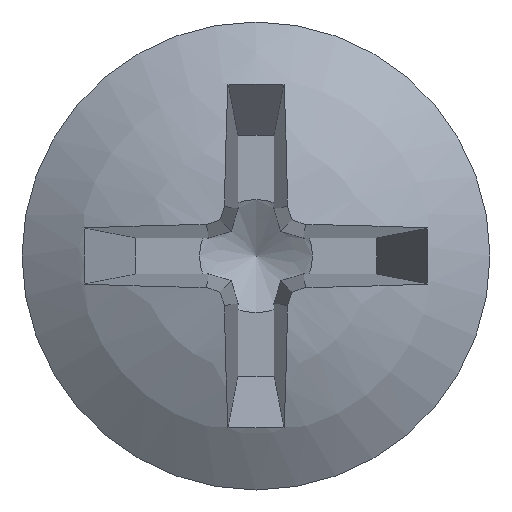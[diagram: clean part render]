
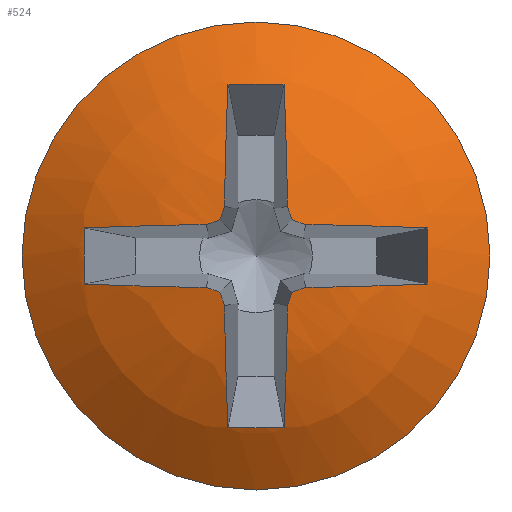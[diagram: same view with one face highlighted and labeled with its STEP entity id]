
A CAD part, front view. The second image highlights one B-rep face of the part: STEP entity #524.
In plain terms, the highlighted spherical face has radius 8 mm.
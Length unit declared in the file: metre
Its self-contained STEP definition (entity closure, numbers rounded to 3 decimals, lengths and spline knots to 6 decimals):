
#34=SPHERICAL_SURFACE('',#572,0.008);
#38=CIRCLE('',#573,0.007999);
#39=CIRCLE('',#574,0.007998);
#40=CIRCLE('',#575,0.007998);
#41=CIRCLE('',#576,0.007999);
#42=CIRCLE('',#577,0.008);
#43=CIRCLE('',#578,0.007999);
#44=CIRCLE('',#579,0.007998);
#45=CIRCLE('',#580,0.007998);
#46=CIRCLE('',#581,0.007999);
#47=CIRCLE('',#582,0.008);
#48=CIRCLE('',#583,0.007999);
#49=CIRCLE('',#584,0.007998);
#50=CIRCLE('',#585,0.007998);
#51=CIRCLE('',#586,0.007999);
#52=CIRCLE('',#587,0.008);
#53=CIRCLE('',#588,0.007999);
#54=CIRCLE('',#589,0.007998);
#55=CIRCLE('',#590,0.007998);
#56=CIRCLE('',#591,0.007999);
#57=CIRCLE('',#592,0.008);
#58=CIRCLE('',#593,0.00475);
#77=ORIENTED_EDGE('',*,*,#233,.F.);
#78=ORIENTED_EDGE('',*,*,#234,.T.);
#79=ORIENTED_EDGE('',*,*,#235,.T.);
#80=ORIENTED_EDGE('',*,*,#236,.T.);
#81=ORIENTED_EDGE('',*,*,#237,.F.);
#82=ORIENTED_EDGE('',*,*,#238,.F.);
#83=ORIENTED_EDGE('',*,*,#239,.T.);
#84=ORIENTED_EDGE('',*,*,#240,.T.);
#85=ORIENTED_EDGE('',*,*,#241,.F.);
#86=ORIENTED_EDGE('',*,*,#242,.T.);
#87=ORIENTED_EDGE('',*,*,#243,.T.);
#88=ORIENTED_EDGE('',*,*,#244,.T.);
#89=ORIENTED_EDGE('',*,*,#245,.T.);
#90=ORIENTED_EDGE('',*,*,#246,.F.);
#91=ORIENTED_EDGE('',*,*,#247,.T.);
#92=ORIENTED_EDGE('',*,*,#248,.T.);
#93=ORIENTED_EDGE('',*,*,#249,.T.);
#94=ORIENTED_EDGE('',*,*,#250,.T.);
#95=ORIENTED_EDGE('',*,*,#251,.T.);
#96=ORIENTED_EDGE('',*,*,#252,.F.);
#97=ORIENTED_EDGE('',*,*,#253,.F.);
#233=EDGE_CURVE('',#311,#312,#38,.T.);
#234=EDGE_CURVE('',#311,#313,#39,.F.);
#235=EDGE_CURVE('',#313,#314,#40,.F.);
#236=EDGE_CURVE('',#314,#315,#41,.F.);
#237=EDGE_CURVE('',#316,#315,#42,.T.);
#238=EDGE_CURVE('',#317,#316,#43,.T.);
#239=EDGE_CURVE('',#317,#318,#44,.F.);
#240=EDGE_CURVE('',#318,#319,#45,.F.);
#241=EDGE_CURVE('',#320,#319,#46,.T.);
#242=EDGE_CURVE('',#320,#321,#47,.F.);
#243=EDGE_CURVE('',#321,#322,#48,.F.);
#244=EDGE_CURVE('',#322,#323,#49,.F.);
#245=EDGE_CURVE('',#323,#324,#50,.F.);
#246=EDGE_CURVE('',#325,#324,#51,.T.);
#247=EDGE_CURVE('',#325,#326,#52,.F.);
#248=EDGE_CURVE('',#326,#327,#53,.F.);
#249=EDGE_CURVE('',#327,#328,#54,.F.);
#250=EDGE_CURVE('',#328,#329,#55,.F.);
#251=EDGE_CURVE('',#329,#330,#56,.F.);
#252=EDGE_CURVE('',#312,#330,#57,.T.);
#253=EDGE_CURVE('',#331,#331,#58,.T.);
#311=VERTEX_POINT('',#816);
#312=VERTEX_POINT('',#817);
#313=VERTEX_POINT('',#819);
#314=VERTEX_POINT('',#821);
#315=VERTEX_POINT('',#823);
#316=VERTEX_POINT('',#825);
#317=VERTEX_POINT('',#827);
#318=VERTEX_POINT('',#829);
#319=VERTEX_POINT('',#831);
#320=VERTEX_POINT('',#833);
#321=VERTEX_POINT('',#835);
#322=VERTEX_POINT('',#837);
#323=VERTEX_POINT('',#839);
#324=VERTEX_POINT('',#841);
#325=VERTEX_POINT('',#843);
#326=VERTEX_POINT('',#845);
#327=VERTEX_POINT('',#847);
#328=VERTEX_POINT('',#849);
#329=VERTEX_POINT('',#851);
#330=VERTEX_POINT('',#853);
#331=VERTEX_POINT('',#856);
#421=EDGE_LOOP('',(#77,#78,#79,#80,#81,#82,#83,#84,#85,#86,#87,#88,#89,
#90,#91,#92,#93,#94,#95,#96));
#422=EDGE_LOOP('',(#97));
#459=FACE_BOUND('',#421,.T.);
#460=FACE_BOUND('',#422,.T.);
#524=ADVANCED_FACE('',(#459,#460),#34,.T.);
#572=AXIS2_PLACEMENT_3D('',#814,#651,#652);
#573=AXIS2_PLACEMENT_3D('',#815,#653,#654);
#574=AXIS2_PLACEMENT_3D('',#818,#655,#656);
#575=AXIS2_PLACEMENT_3D('',#820,#657,#658);
#576=AXIS2_PLACEMENT_3D('',#822,#659,#660);
#577=AXIS2_PLACEMENT_3D('',#824,#661,#662);
#578=AXIS2_PLACEMENT_3D('',#826,#663,#664);
#579=AXIS2_PLACEMENT_3D('',#828,#665,#666);
#580=AXIS2_PLACEMENT_3D('',#830,#667,#668);
#581=AXIS2_PLACEMENT_3D('',#832,#669,#670);
#582=AXIS2_PLACEMENT_3D('',#834,#671,#672);
#583=AXIS2_PLACEMENT_3D('',#836,#673,#674);
#584=AXIS2_PLACEMENT_3D('',#838,#675,#676);
#585=AXIS2_PLACEMENT_3D('',#840,#677,#678);
#586=AXIS2_PLACEMENT_3D('',#842,#679,#680);
#587=AXIS2_PLACEMENT_3D('',#844,#681,#682);
#588=AXIS2_PLACEMENT_3D('',#846,#683,#684);
#589=AXIS2_PLACEMENT_3D('',#848,#685,#686);
#590=AXIS2_PLACEMENT_3D('',#850,#687,#688);
#591=AXIS2_PLACEMENT_3D('',#852,#689,#690);
#592=AXIS2_PLACEMENT_3D('',#854,#691,#692);
#593=AXIS2_PLACEMENT_3D('',#855,#693,#694);
#651=DIRECTION('',(0.,1.,0.));
#652=DIRECTION('',(0.,0.,1.));
#653=DIRECTION('',(0.995,-0.095,0.));
#654=DIRECTION('',(-0.095,-0.995,0.));
#655=DIRECTION('',(0.943,-0.095,0.318));
#656=DIRECTION('',(-0.319,0.,0.948));
#657=DIRECTION('',(0.318,-0.095,0.943));
#658=DIRECTION('',(-0.948,0.,0.319));
#659=DIRECTION('',(0.,-0.095,0.995));
#660=DIRECTION('',(0.,-0.995,-0.095));
#661=DIRECTION('',(0.896,-0.443,0.));
#662=DIRECTION('',(-0.443,-0.896,0.));
#663=DIRECTION('',(0.,-0.095,-0.995));
#664=DIRECTION('',(0.,0.995,-0.095));
#665=DIRECTION('',(0.318,-0.095,-0.943));
#666=DIRECTION('',(0.948,0.,0.319));
#667=DIRECTION('',(0.943,-0.095,-0.318));
#668=DIRECTION('',(0.319,0.,0.948));
#669=DIRECTION('',(0.995,-0.095,0.));
#670=DIRECTION('',(-0.095,-0.995,0.));
#671=DIRECTION('',(0.,-0.443,-0.896));
#672=DIRECTION('',(0.,0.896,-0.443));
#673=DIRECTION('',(-0.995,-0.095,0.));
#674=DIRECTION('',(-0.095,0.995,0.));
#675=DIRECTION('',(-0.943,-0.095,-0.318));
#676=DIRECTION('',(0.319,0.,-0.948));
#677=DIRECTION('',(-0.318,-0.095,-0.943));
#678=DIRECTION('',(0.948,0.,-0.319));
#679=DIRECTION('',(0.,-0.095,-0.995));
#680=DIRECTION('',(0.,0.995,-0.095));
#681=DIRECTION('',(-0.896,-0.443,0.));
#682=DIRECTION('',(-0.443,0.896,0.));
#683=DIRECTION('',(0.,-0.095,0.995));
#684=DIRECTION('',(0.,-0.995,-0.095));
#685=DIRECTION('',(-0.318,-0.095,0.943));
#686=DIRECTION('',(-0.948,0.,-0.319));
#687=DIRECTION('',(-0.943,-0.095,0.318));
#688=DIRECTION('',(-0.319,0.,-0.948));
#689=DIRECTION('',(-0.995,-0.095,0.));
#690=DIRECTION('',(-0.095,0.995,0.));
#691=DIRECTION('',(0.,-0.443,0.896));
#692=DIRECTION('',(0.,-0.896,-0.443));
#693=DIRECTION('',(0.,1.,0.));
#694=DIRECTION('',(0.,0.,1.));
#814=CARTESIAN_POINT('',(0.296181,-0.037723,-0.065268));
#815=CARTESIAN_POINT('',(0.296297,-0.037734,-0.065268));
#816=CARTESIAN_POINT('',(0.295543,-0.045633,-0.066276));
#817=CARTESIAN_POINT('',(0.295613,-0.044904,-0.068747));
#818=CARTESIAN_POINT('',(0.29602,-0.037706,-0.065323));
#819=CARTESIAN_POINT('',(0.295448,-0.045655,-0.066002));
#820=CARTESIAN_POINT('',(0.296127,-0.037706,-0.06543));
#821=CARTESIAN_POINT('',(0.295173,-0.045633,-0.065907));
#822=CARTESIAN_POINT('',(0.296181,-0.037734,-0.065153));
#823=CARTESIAN_POINT('',(0.292703,-0.044904,-0.065837));
#824=CARTESIAN_POINT('',(0.296238,-0.037751,-0.065268));
#825=CARTESIAN_POINT('',(0.292703,-0.044904,-0.0647));
#826=CARTESIAN_POINT('',(0.296181,-0.037734,-0.065384));
#827=CARTESIAN_POINT('',(0.295173,-0.045633,-0.06463));
#828=CARTESIAN_POINT('',(0.296127,-0.037706,-0.065107));
#829=CARTESIAN_POINT('',(0.295448,-0.045655,-0.064535));
#830=CARTESIAN_POINT('',(0.29602,-0.037706,-0.065214));
#831=CARTESIAN_POINT('',(0.295543,-0.045633,-0.064261));
#832=CARTESIAN_POINT('',(0.296297,-0.037734,-0.065268));
#833=CARTESIAN_POINT('',(0.295613,-0.044904,-0.06179));
#834=CARTESIAN_POINT('',(0.296181,-0.037751,-0.065325));
#835=CARTESIAN_POINT('',(0.29675,-0.044904,-0.06179));
#836=CARTESIAN_POINT('',(0.296066,-0.037734,-0.065268));
#837=CARTESIAN_POINT('',(0.29682,-0.045633,-0.064261));
#838=CARTESIAN_POINT('',(0.296343,-0.037706,-0.065214));
#839=CARTESIAN_POINT('',(0.296914,-0.045655,-0.064535));
#840=CARTESIAN_POINT('',(0.296236,-0.037706,-0.065107));
#841=CARTESIAN_POINT('',(0.297189,-0.045633,-0.06463));
#842=CARTESIAN_POINT('',(0.296181,-0.037734,-0.065384));
#843=CARTESIAN_POINT('',(0.29966,-0.044904,-0.0647));
#844=CARTESIAN_POINT('',(0.296125,-0.037751,-0.065268));
#845=CARTESIAN_POINT('',(0.29966,-0.044904,-0.065837));
#846=CARTESIAN_POINT('',(0.296181,-0.037734,-0.065153));
#847=CARTESIAN_POINT('',(0.297189,-0.045633,-0.065907));
#848=CARTESIAN_POINT('',(0.296236,-0.037706,-0.06543));
#849=CARTESIAN_POINT('',(0.296914,-0.045655,-0.066002));
#850=CARTESIAN_POINT('',(0.296343,-0.037706,-0.065323));
#851=CARTESIAN_POINT('',(0.29682,-0.045633,-0.066276));
#852=CARTESIAN_POINT('',(0.296066,-0.037734,-0.065268));
#853=CARTESIAN_POINT('',(0.29675,-0.044904,-0.068747));
#854=CARTESIAN_POINT('',(0.296181,-0.037751,-0.065212));
#855=CARTESIAN_POINT('',(0.296181,-0.04416,-0.065268));
#856=CARTESIAN_POINT('',(0.296181,-0.04416,-0.060518));
